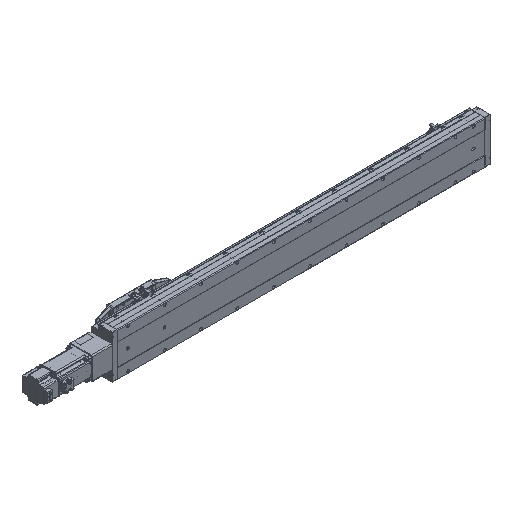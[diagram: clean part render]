
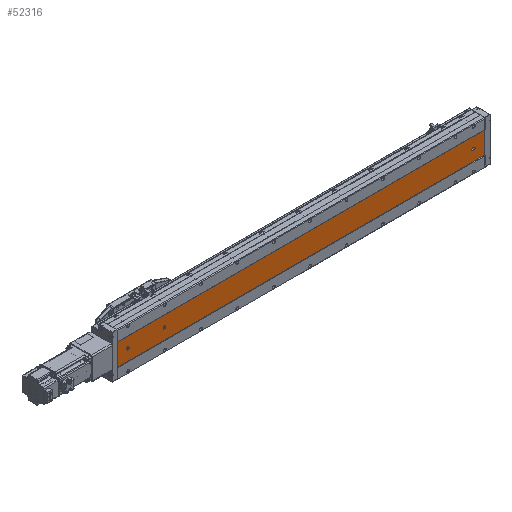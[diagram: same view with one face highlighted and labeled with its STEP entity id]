
A CAD part, isometric view. The second image highlights one B-rep face of the part: STEP entity #52316.
In plain terms, the highlighted planar face has unit normal (0, -1, 0).
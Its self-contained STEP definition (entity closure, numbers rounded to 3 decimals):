
#321 = ORIENTED_EDGE ( 'NONE', *, *, #53691, .T. ) ;
#639 = CARTESIAN_POINT ( 'NONE',  ( -69.892, -52.848, 1011. ) ) ;
#1105 = EDGE_CURVE ( 'NONE', #5828, #62724, #62871, .T. ) ;
#1179 = CARTESIAN_POINT ( 'NONE',  ( -39.892, -52.848, 984.5 ) ) ;
#1238 = CARTESIAN_POINT ( 'NONE',  ( -39.892, -52.848, 32. ) ) ;
#1612 = LINE ( 'NONE', #57161, #43857 ) ;
#2760 = CARTESIAN_POINT ( 'NONE',  ( -39.892, -52.848, 981. ) ) ;
#4401 = DIRECTION ( 'NONE',  ( 0., 0., -1. ) ) ;
#5765 = VERTEX_POINT ( 'NONE', #74529 ) ;
#5828 = VERTEX_POINT ( 'NONE', #82843 ) ;
#5926 = CARTESIAN_POINT ( 'NONE',  ( -43.392, -52.848, 1011. ) ) ;
#7378 = PLANE ( 'NONE',  #26150 ) ;
#7649 = EDGE_CURVE ( 'NONE', #5765, #69023, #34865, .T. ) ;
#7681 = DIRECTION ( 'NONE',  ( 0., 1., 0. ) ) ;
#7860 = ORIENTED_EDGE ( 'NONE', *, *, #9296, .T. ) ;
#8118 = DIRECTION ( 'NONE',  ( 0., 1., 0. ) ) ;
#8643 = DIRECTION ( 'NONE',  ( 0., 1., 0. ) ) ;
#8859 = ORIENTED_EDGE ( 'NONE', *, *, #7649, .T. ) ;
#9133 = DIRECTION ( 'NONE',  ( 0., 1., 0. ) ) ;
#9242 = CARTESIAN_POINT ( 'NONE',  ( -36.392, -52.848, 32. ) ) ;
#9296 = EDGE_CURVE ( 'NONE', #35127, #5765, #81635, .T. ) ;
#9506 = VERTEX_POINT ( 'NONE', #9242 ) ;
#9878 = DIRECTION ( 'NONE',  ( 0., 0., 1. ) ) ;
#10301 = VECTOR ( 'NONE', #64163, 1000. ) ;
#11968 = VERTEX_POINT ( 'NONE', #41580 ) ;
#12606 = DIRECTION ( 'NONE',  ( 0., 0., 1. ) ) ;
#15218 = VERTEX_POINT ( 'NONE', #69727 ) ;
#15440 = DIRECTION ( 'NONE',  ( 0., 0., 1. ) ) ;
#15818 = EDGE_CURVE ( 'NONE', #62682, #92864, #82907, .T. ) ;
#16510 = EDGE_LOOP ( 'NONE', ( #8859, #31531, #69767, #62900, #7860 ) ) ;
#16660 = FACE_BOUND ( 'NONE', #16510, .T. ) ;
#17843 = EDGE_LOOP ( 'NONE', ( #40356, #86106, #50387, #32205 ) ) ;
#20828 = CARTESIAN_POINT ( 'NONE',  ( -39.892, -52.848, 881. ) ) ;
#21376 = DIRECTION ( 'NONE',  ( 0., 0., 1. ) ) ;
#22980 = DIRECTION ( 'NONE',  ( 0., 0., 1. ) ) ;
#24026 = AXIS2_PLACEMENT_3D ( 'NONE', #20828, #86853, #43576 ) ;
#26150 = AXIS2_PLACEMENT_3D ( 'NONE', #81623, #8643, #9878 ) ;
#26922 = FACE_BOUND ( 'NONE', #81780, .T. ) ;
#27330 = EDGE_CURVE ( 'NONE', #15218, #35127, #57849, .T. ) ;
#28476 = CIRCLE ( 'NONE', #48965, 3.5 ) ;
#29888 = CARTESIAN_POINT ( 'NONE',  ( -39.892, -52.848, 977.5 ) ) ;
#31531 = ORIENTED_EDGE ( 'NONE', *, *, #42480, .T. ) ;
#31565 = CARTESIAN_POINT ( 'NONE',  ( -9.892, -52.848, 1011. ) ) ;
#32205 = ORIENTED_EDGE ( 'NONE', *, *, #1105, .T. ) ;
#34745 = CARTESIAN_POINT ( 'NONE',  ( -36.392, -52.848, 1011. ) ) ;
#34865 = LINE ( 'NONE', #5926, #38227 ) ;
#35127 = VERTEX_POINT ( 'NONE', #82501 ) ;
#36672 = VERTEX_POINT ( 'NONE', #50206 ) ;
#38227 = VECTOR ( 'NONE', #12606, 1000. ) ;
#38442 = FACE_BOUND ( 'NONE', #52130, .T. ) ;
#38937 = AXIS2_PLACEMENT_3D ( 'NONE', #88681, #7681, #22980 ) ;
#39368 = CIRCLE ( 'NONE', #72379, 3.5 ) ;
#40356 = ORIENTED_EDGE ( 'NONE', *, *, #44576, .T. ) ;
#40571 = AXIS2_PLACEMENT_3D ( 'NONE', #2760, #9133, #90703 ) ;
#41580 = CARTESIAN_POINT ( 'NONE',  ( -9.892, -52.848, 1011. ) ) ;
#42480 = EDGE_CURVE ( 'NONE', #69023, #9506, #28476, .T. ) ;
#43576 = DIRECTION ( 'NONE',  ( 0., 0., 1. ) ) ;
#43857 = VECTOR ( 'NONE', #56853, 1000. ) ;
#44373 = ORIENTED_EDGE ( 'NONE', *, *, #75087, .T. ) ;
#44576 = EDGE_CURVE ( 'NONE', #62724, #36672, #84394, .T. ) ;
#46409 = CARTESIAN_POINT ( 'NONE',  ( -39.892, -52.848, 877.5 ) ) ;
#47616 = FACE_OUTER_BOUND ( 'NONE', #17843, .T. ) ;
#47703 = VECTOR ( 'NONE', #76642, 1000. ) ;
#48965 = AXIS2_PLACEMENT_3D ( 'NONE', #1238, #94949, #59422 ) ;
#50206 = CARTESIAN_POINT ( 'NONE',  ( -9.892, -52.848, 0. ) ) ;
#50387 = ORIENTED_EDGE ( 'NONE', *, *, #54099, .F. ) ;
#51054 = VERTEX_POINT ( 'NONE', #46409 ) ;
#52130 = EDGE_LOOP ( 'NONE', ( #60522, #321 ) ) ;
#52316 = ADVANCED_FACE ( 'NONE', ( #16660, #38442, #26922, #47616 ), #7378, .F. ) ;
#53174 = CARTESIAN_POINT ( 'NONE',  ( -39.892, -52.848, 881. ) ) ;
#53528 = AXIS2_PLACEMENT_3D ( 'NONE', #81259, #59140, #21376 ) ;
#53691 = EDGE_CURVE ( 'NONE', #81956, #51054, #39368, .T. ) ;
#54099 = EDGE_CURVE ( 'NONE', #5828, #11968, #1612, .T. ) ;
#56853 = DIRECTION ( 'NONE',  ( 1., 0., 0. ) ) ;
#57161 = CARTESIAN_POINT ( 'NONE',  ( -69.892, -52.848, 1011. ) ) ;
#57623 = CARTESIAN_POINT ( 'NONE',  ( -39.892, -52.848, 884.5 ) ) ;
#57849 = CIRCLE ( 'NONE', #70621, 3.5 ) ;
#59140 = DIRECTION ( 'NONE',  ( 0., 1., 0. ) ) ;
#59422 = DIRECTION ( 'NONE',  ( 0., 0., 1. ) ) ;
#59599 = ORIENTED_EDGE ( 'NONE', *, *, #15818, .T. ) ;
#60522 = ORIENTED_EDGE ( 'NONE', *, *, #83789, .T. ) ;
#62682 = VERTEX_POINT ( 'NONE', #29888 ) ;
#62724 = VERTEX_POINT ( 'NONE', #90054 ) ;
#62871 = LINE ( 'NONE', #639, #94896 ) ;
#62900 = ORIENTED_EDGE ( 'NONE', *, *, #27330, .T. ) ;
#64163 = DIRECTION ( 'NONE',  ( 0., 0., -1. ) ) ;
#68609 = DIRECTION ( 'NONE',  ( 0., 0., 1. ) ) ;
#69023 = VERTEX_POINT ( 'NONE', #88169 ) ;
#69727 = CARTESIAN_POINT ( 'NONE',  ( -36.392, -52.848, 30. ) ) ;
#69767 = ORIENTED_EDGE ( 'NONE', *, *, #74129, .T. ) ;
#70621 = AXIS2_PLACEMENT_3D ( 'NONE', #82397, #70858, #68609 ) ;
#70858 = DIRECTION ( 'NONE',  ( 0., 1., 0. ) ) ;
#72379 = AXIS2_PLACEMENT_3D ( 'NONE', #53174, #8118, #15440 ) ;
#74129 = EDGE_CURVE ( 'NONE', #9506, #15218, #84748, .T. ) ;
#74529 = CARTESIAN_POINT ( 'NONE',  ( -43.392, -52.848, 30. ) ) ;
#75087 = EDGE_CURVE ( 'NONE', #92864, #62682, #90231, .T. ) ;
#76642 = DIRECTION ( 'NONE',  ( 1., 0., 0. ) ) ;
#79141 = VECTOR ( 'NONE', #4401, 1000. ) ;
#79301 = CIRCLE ( 'NONE', #24026, 3.5 ) ;
#80641 = DIRECTION ( 'NONE',  ( 0., 0., -1. ) ) ;
#81259 = CARTESIAN_POINT ( 'NONE',  ( -39.892, -52.848, 981. ) ) ;
#81623 = CARTESIAN_POINT ( 'NONE',  ( -69.892, -52.848, 1011. ) ) ;
#81635 = CIRCLE ( 'NONE', #38937, 3.5 ) ;
#81780 = EDGE_LOOP ( 'NONE', ( #59599, #44373 ) ) ;
#81956 = VERTEX_POINT ( 'NONE', #57623 ) ;
#82397 = CARTESIAN_POINT ( 'NONE',  ( -39.892, -52.848, 30. ) ) ;
#82501 = CARTESIAN_POINT ( 'NONE',  ( -39.892, -52.848, 26.5 ) ) ;
#82843 = CARTESIAN_POINT ( 'NONE',  ( -69.892, -52.848, 1011. ) ) ;
#82907 = CIRCLE ( 'NONE', #40571, 3.5 ) ;
#83789 = EDGE_CURVE ( 'NONE', #51054, #81956, #79301, .T. ) ;
#84394 = LINE ( 'NONE', #91338, #47703 ) ;
#84748 = LINE ( 'NONE', #34745, #10301 ) ;
#85535 = EDGE_CURVE ( 'NONE', #11968, #36672, #91666, .T. ) ;
#86106 = ORIENTED_EDGE ( 'NONE', *, *, #85535, .F. ) ;
#86853 = DIRECTION ( 'NONE',  ( 0., 1., 0. ) ) ;
#88169 = CARTESIAN_POINT ( 'NONE',  ( -43.392, -52.848, 32. ) ) ;
#88681 = CARTESIAN_POINT ( 'NONE',  ( -39.892, -52.848, 30. ) ) ;
#90054 = CARTESIAN_POINT ( 'NONE',  ( -69.892, -52.848, 0. ) ) ;
#90231 = CIRCLE ( 'NONE', #53528, 3.5 ) ;
#90703 = DIRECTION ( 'NONE',  ( 0., 0., 1. ) ) ;
#91338 = CARTESIAN_POINT ( 'NONE',  ( -69.892, -52.848, 0. ) ) ;
#91666 = LINE ( 'NONE', #31565, #79141 ) ;
#92864 = VERTEX_POINT ( 'NONE', #1179 ) ;
#94896 = VECTOR ( 'NONE', #80641, 1000. ) ;
#94949 = DIRECTION ( 'NONE',  ( 0., 1., 0. ) ) ;
